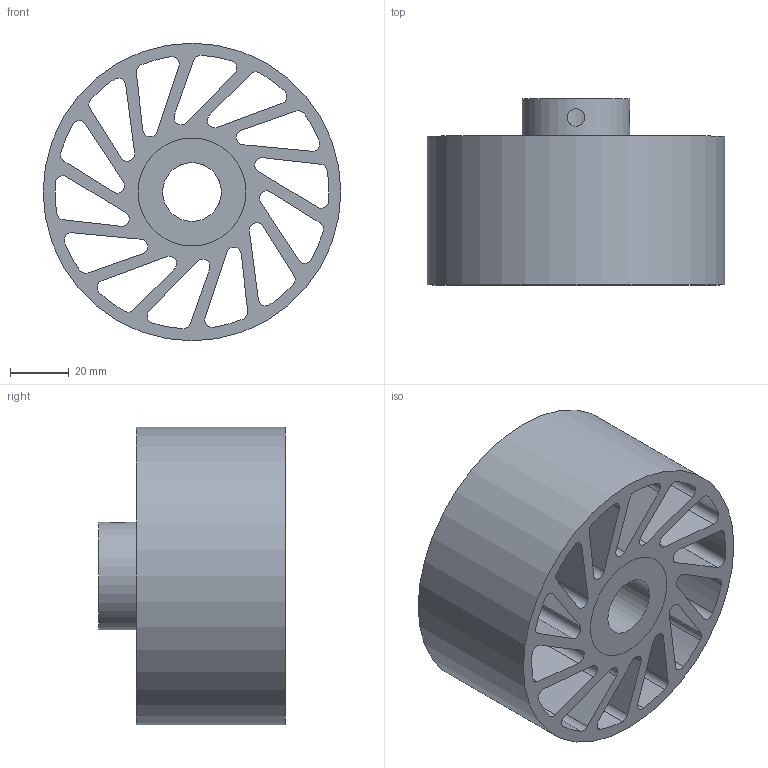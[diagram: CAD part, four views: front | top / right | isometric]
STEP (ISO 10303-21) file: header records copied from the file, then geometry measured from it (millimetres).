
FILE_DESCRIPTION(/* description */ (''),/* implementation_level */ '2;1');
FILE_NAME(/* name */ 'NCWM-420-XXX-YYY.stp',/* time_stamp */ '2023-02-02T16:27:21-06:00',/* author */ ('AG'),/* organization */ ('Meridian Laboratory'),/* preprocessor_version */ 'ST-DEVELOPER v18.1',/* originating_system */ 'Autodesk Inventor 2022',/* authorisation */ '');
FILE_SCHEMA (('AUTOMOTIVE_DESIGN { 1 0 10303 214 3 1 1 }'));
Length unit declared in the file: millimetre
Products named in the file (1): NCWM-340
Bounding box: 101.6 x 63.5 x 101.6 mm (x, y, z)
Volume: 223986.8 mm3; surface area: 91305.4 mm2
Topology: 2 solids, 2 shells, 94 faces, 276 edges, 186 vertices
Faces by surface type: cylinder 62, plane 32
Full cylindrical faces by diameter (mm): 6 x2, 20.025 x1, 36.83 x2, 101.6 x1
Entity records: 3528 total; most frequent: CARTESIAN_POINT 697, DIRECTION 576, ORIENTED_EDGE 552, EDGE_CURVE 276, AXIS2_PLACEMENT_3D 215, VERTEX_POINT 186, LINE 146, VECTOR 146
